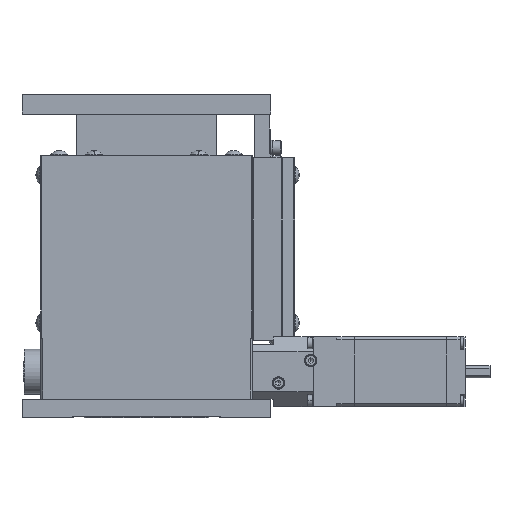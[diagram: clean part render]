
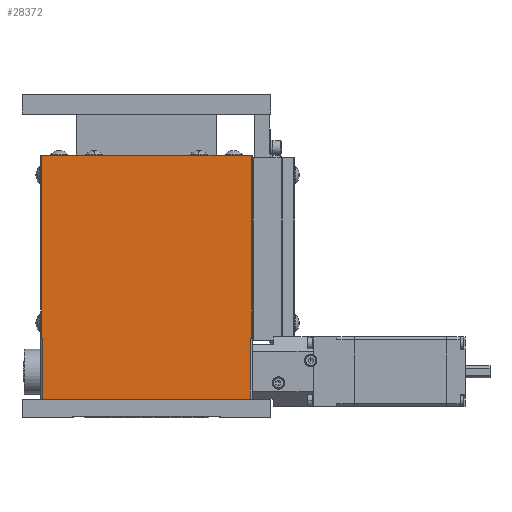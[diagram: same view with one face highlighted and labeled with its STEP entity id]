
A CAD part, front view. The second image highlights one B-rep face of the part: STEP entity #28372.
In plain terms, the highlighted planar face has unit normal (0, -1, 0).
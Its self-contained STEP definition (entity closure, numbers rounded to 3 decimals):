
#175 = EDGE_CURVE ( 'NONE', #33156, #16502, #42283, .T. ) ;
#513 = CARTESIAN_POINT ( 'NONE',  ( -134.128, -64.312, 240.845 ) ) ;
#1022 = VECTOR ( 'NONE', #31885, 1000. ) ;
#1141 = EDGE_CURVE ( 'NONE', #13265, #14188, #40032, .T. ) ;
#5148 = CARTESIAN_POINT ( 'NONE',  ( -134.628, -64.312, 314.345 ) ) ;
#5162 = ORIENTED_EDGE ( 'NONE', *, *, #8841, .T. ) ;
#5676 = VECTOR ( 'NONE', #32579, 1000. ) ;
#5784 = LINE ( 'NONE', #36996, #51716 ) ;
#6231 = LINE ( 'NONE', #57237, #24871 ) ;
#6386 = ORIENTED_EDGE ( 'NONE', *, *, #6853, .T. ) ;
#6853 = EDGE_CURVE ( 'NONE', #16502, #45825, #6231, .T. ) ;
#8347 = ORIENTED_EDGE ( 'NONE', *, *, #44235, .T. ) ;
#8841 = EDGE_CURVE ( 'NONE', #28038, #11080, #31807, .T. ) ;
#10759 = PLANE ( 'NONE',  #10813 ) ;
#10813 = AXIS2_PLACEMENT_3D ( 'NONE', #20965, #11732, #11340 ) ;
#11080 = VERTEX_POINT ( 'NONE', #54162 ) ;
#11177 = DIRECTION ( 'NONE',  ( 0., 0., 1. ) ) ;
#11340 = DIRECTION ( 'NONE',  ( 1., 0., 0. ) ) ;
#11566 = CARTESIAN_POINT ( 'NONE',  ( -134.128, -64.312, 314.345 ) ) ;
#11572 = CARTESIAN_POINT ( 'NONE',  ( -50.528, -64.312, 216.345 ) ) ;
#11732 = DIRECTION ( 'NONE',  ( 0., 1., 0. ) ) ;
#12155 = DIRECTION ( 'NONE',  ( 1., 0., 0. ) ) ;
#13027 = CARTESIAN_POINT ( 'NONE',  ( -134.128, -64.312, 240.845 ) ) ;
#13265 = VERTEX_POINT ( 'NONE', #54311 ) ;
#13439 = ORIENTED_EDGE ( 'NONE', *, *, #34581, .T. ) ;
#14188 = VERTEX_POINT ( 'NONE', #18779 ) ;
#15170 = EDGE_CURVE ( 'NONE', #33541, #33156, #16440, .T. ) ;
#16440 = LINE ( 'NONE', #513, #5676 ) ;
#16502 = VERTEX_POINT ( 'NONE', #53832 ) ;
#18559 = VECTOR ( 'NONE', #54538, 1000. ) ;
#18779 = CARTESIAN_POINT ( 'NONE',  ( -50.528, -64.312, 240.845 ) ) ;
#20965 = CARTESIAN_POINT ( 'NONE',  ( -134.628, -64.312, 216.345 ) ) ;
#21379 = CARTESIAN_POINT ( 'NONE',  ( -134.628, -64.312, 240.845 ) ) ;
#23561 = DIRECTION ( 'NONE',  ( 1., 0., 0. ) ) ;
#24871 = VECTOR ( 'NONE', #38959, 1000. ) ;
#25190 = LINE ( 'NONE', #5148, #51734 ) ;
#26190 = VECTOR ( 'NONE', #12155, 1000. ) ;
#28038 = VERTEX_POINT ( 'NONE', #45115 ) ;
#28372 = ADVANCED_FACE ( 'NONE', ( #36805 ), #10759, .F. ) ;
#29776 = EDGE_CURVE ( 'NONE', #33541, #11080, #25190, .T. ) ;
#31807 = LINE ( 'NONE', #59003, #1022 ) ;
#31885 = DIRECTION ( 'NONE',  ( 0., 0., 1. ) ) ;
#32579 = DIRECTION ( 'NONE',  ( 0., 0., -1. ) ) ;
#33156 = VERTEX_POINT ( 'NONE', #13027 ) ;
#33541 = VERTEX_POINT ( 'NONE', #11566 ) ;
#34581 = EDGE_CURVE ( 'NONE', #14188, #28038, #38384, .T. ) ;
#36805 = FACE_OUTER_BOUND ( 'NONE', #42218, .T. ) ;
#36996 = CARTESIAN_POINT ( 'NONE',  ( -134.628, -64.312, 216.345 ) ) ;
#37218 = DIRECTION ( 'NONE',  ( 1., 0., 0. ) ) ;
#38384 = LINE ( 'NONE', #21379, #26190 ) ;
#38807 = ORIENTED_EDGE ( 'NONE', *, *, #175, .T. ) ;
#38959 = DIRECTION ( 'NONE',  ( 0., 0., -1. ) ) ;
#40032 = LINE ( 'NONE', #11572, #43599 ) ;
#42218 = EDGE_LOOP ( 'NONE', ( #8347, #51676, #13439, #5162, #55166, #44984, #38807, #6386 ) ) ;
#42283 = LINE ( 'NONE', #57959, #18559 ) ;
#43599 = VECTOR ( 'NONE', #11177, 1000. ) ;
#44235 = EDGE_CURVE ( 'NONE', #45825, #13265, #5784, .T. ) ;
#44984 = ORIENTED_EDGE ( 'NONE', *, *, #15170, .T. ) ;
#45115 = CARTESIAN_POINT ( 'NONE',  ( -50.128, -64.312, 240.845 ) ) ;
#45825 = VERTEX_POINT ( 'NONE', #58701 ) ;
#51676 = ORIENTED_EDGE ( 'NONE', *, *, #1141, .T. ) ;
#51716 = VECTOR ( 'NONE', #23561, 1000. ) ;
#51734 = VECTOR ( 'NONE', #37218, 1000. ) ;
#53832 = CARTESIAN_POINT ( 'NONE',  ( -133.728, -64.312, 240.845 ) ) ;
#54162 = CARTESIAN_POINT ( 'NONE',  ( -50.128, -64.312, 314.345 ) ) ;
#54311 = CARTESIAN_POINT ( 'NONE',  ( -50.528, -64.312, 216.345 ) ) ;
#54538 = DIRECTION ( 'NONE',  ( 1., 0., 0. ) ) ;
#55166 = ORIENTED_EDGE ( 'NONE', *, *, #29776, .F. ) ;
#57237 = CARTESIAN_POINT ( 'NONE',  ( -133.728, -64.312, 216.345 ) ) ;
#57959 = CARTESIAN_POINT ( 'NONE',  ( -134.628, -64.312, 240.845 ) ) ;
#58701 = CARTESIAN_POINT ( 'NONE',  ( -133.728, -64.312, 216.345 ) ) ;
#59003 = CARTESIAN_POINT ( 'NONE',  ( -50.128, -64.312, 240.845 ) ) ;
